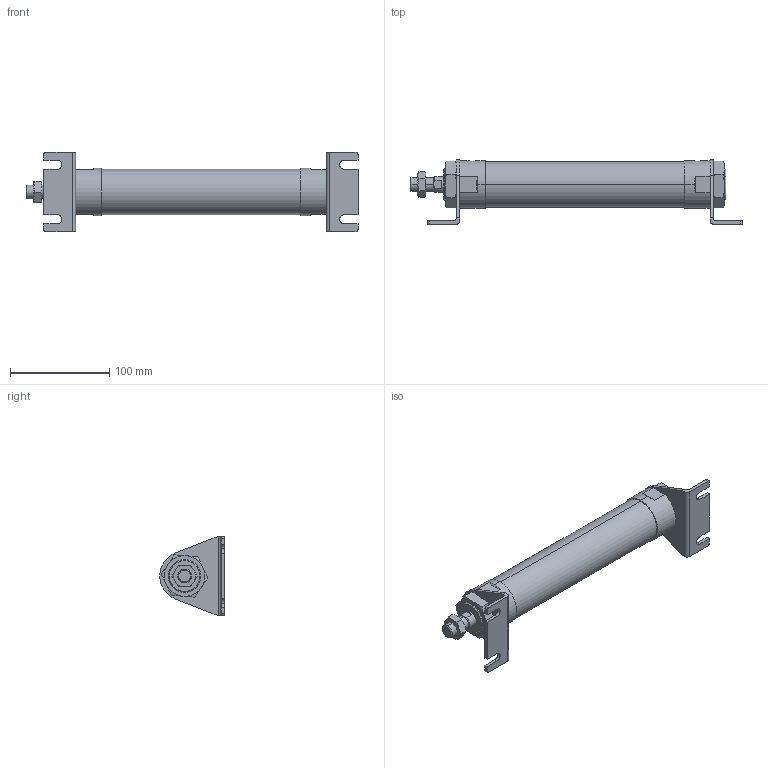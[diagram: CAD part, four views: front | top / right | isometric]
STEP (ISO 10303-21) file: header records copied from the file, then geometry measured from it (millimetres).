
FILE_DESCRIPTION (( 'STEP AP203' ), '1' );
FILE_NAME ('J#2-40-150-L.STEP', '2016-03-10T01:07:29', ( '' ), ( '' ), 'SwSTEP 2.0', 'SolidWorks 2014', '' );
FILE_SCHEMA (( 'CONFIG_CONTROL_DESIGN' ));
Length unit declared in the file: millimetre
Products named in the file (5): J#2-40-150-L; J#2-40-L; J#2-40-150
Assembly tree (6 placements, depth 2):
  J#2-40-150-L
    J#2-40-150
    (unnamed)
    (unnamed)  x2
    J#2-40-L  x2
Bounding box: 335.2 x 65 x 80 mm (x, y, z)
Volume: 506088.7 mm3; surface area: 78263.5 mm2
Topology: 6 solids, 6 shells, 170 faces, 404 edges, 249 vertices
Faces by surface type: plane 71, cylinder 48, torus 36, cone 15
Entity records: 4463 total; most frequent: CARTESIAN_POINT 1173, DIRECTION 578, ORIENTED_EDGE 558, EDGE_CURVE 279, AXIS2_PLACEMENT_3D 232, VERTEX_POINT 173, EDGE_LOOP 134, ADVANCED_FACE 121
